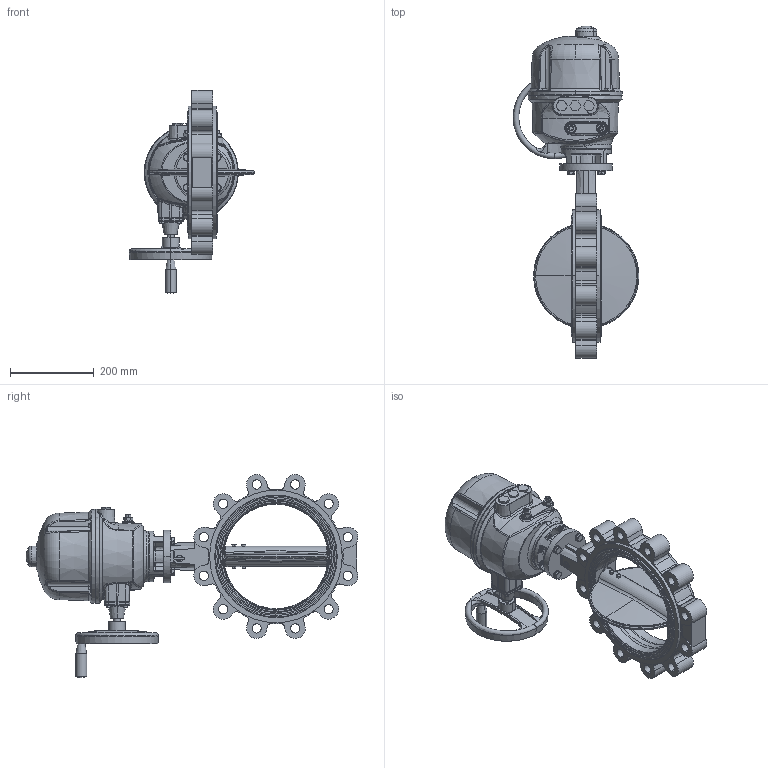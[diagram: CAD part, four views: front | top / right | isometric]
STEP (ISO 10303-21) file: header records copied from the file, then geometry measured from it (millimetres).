
FILE_DESCRIPTION (( 'STEP AP214' ), '1' );
FILE_NAME ('VPG464X-BX4XX0250.step', '2022-09-20T11:25:00', ( '' ), ( '' ), 'SwSTEP 2.0', 'SolidWorks 2020', '' );
FILE_SCHEMA (( 'AUTOMOTIVE_DESIGN' ));
Length unit declared in the file: millimetre
Products named in the file (1): VPG464X-BX4XX0250
Bounding box: 299.28 x 790.73 x 483.91 mm (x, y, z)
Surface area: 843108 mm2 (no closed solid volume)
Topology: 0 solids, 94 shells, 1077 faces, 5316 edges, 4225 vertices
Faces by surface type: plane 390, cylinder 267, bspline 169, torus 131, cone 110, sphere 10
Entity records: 103070 total; most frequent: CARTESIAN_POINT 56550, ORIENTED_EDGE 7435, EDGE_CURVE 5292, DIRECTION 4479, VERTEX_POINT 4221, B_SPLINE_CURVE_WITH_KNOTS 2963, VECTOR 1771, LINE 1771
